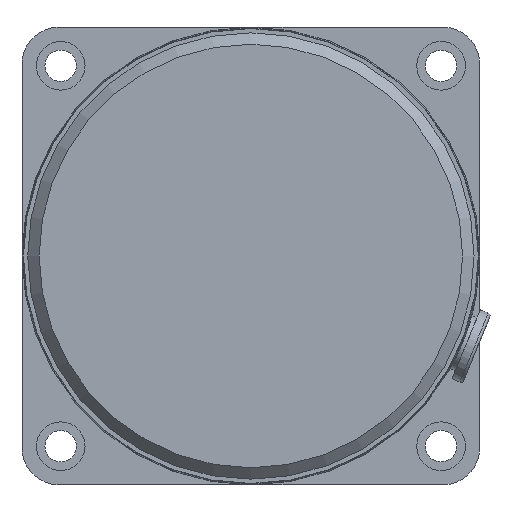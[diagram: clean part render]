
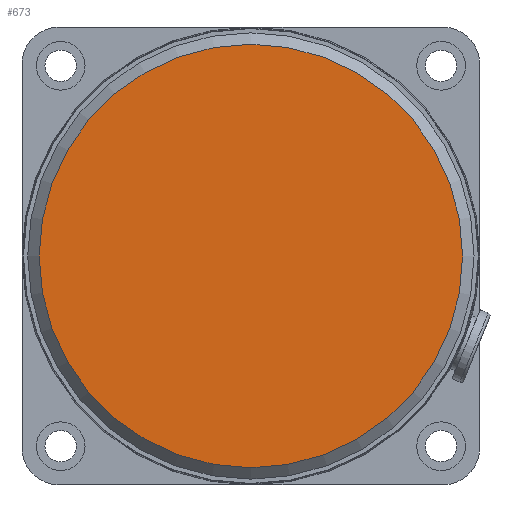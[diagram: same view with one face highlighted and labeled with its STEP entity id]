
A CAD part, left-side view. The second image highlights one B-rep face of the part: STEP entity #673.
In plain terms, the highlighted planar face has unit normal (-1, 0, 0).
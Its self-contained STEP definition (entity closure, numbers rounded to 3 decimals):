
#657=CARTESIAN_POINT('',(0.0,18.5,0.0));
#658=DIRECTION('',(-1.0,0.0,0.0));
#659=DIRECTION('',(0.0,0.0,1.0));
#660=AXIS2_PLACEMENT_3D('',#657,#658,#659);
#661=PLANE('',#660);
#662=CARTESIAN_POINT('',(0.0,37.,0.0));
#663=VERTEX_POINT('',#662);
#664=CARTESIAN_POINT('',(0.,0.,0.0));
#665=DIRECTION('',(1.0,0.0,0.0));
#666=DIRECTION('',(0.0,1.0,0.0));
#667=AXIS2_PLACEMENT_3D('',#664,#665,#666);
#668=CIRCLE('',#667,37.);
#669=EDGE_CURVE('',#663,#663,#668,.T.);
#670=ORIENTED_EDGE('',*,*,#669,.F.);
#671=EDGE_LOOP('',(#670));
#672=FACE_OUTER_BOUND('',#671,.T.);
#673=ADVANCED_FACE('',(#672),#661,.T.);
